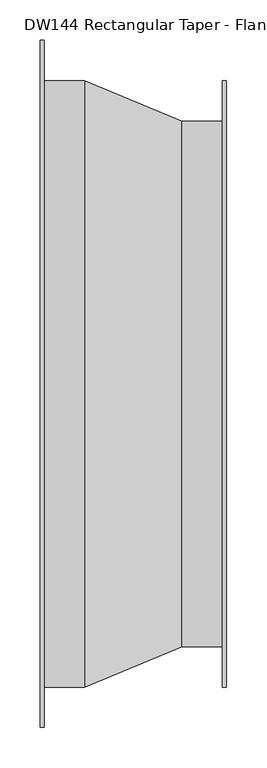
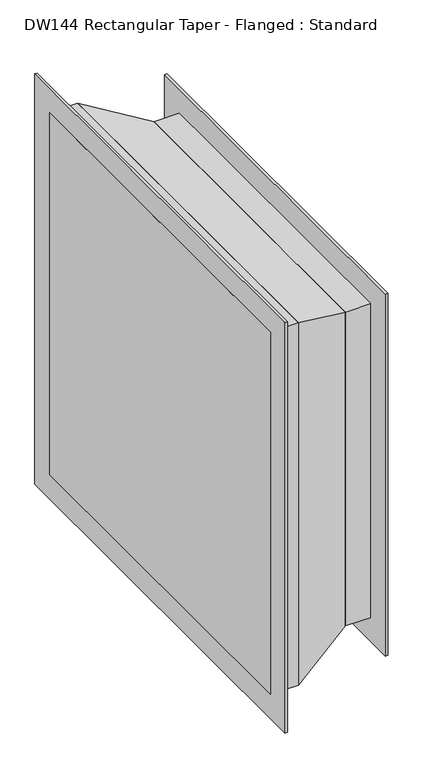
"""IFC4 building model written with IfcOpenShell, lengths in millimetres: duct fitting geometry, DW144 Rectangular Taper - Flanged : Standard."""

from ifc_helpers import new_model, si_unit, frame, origin, place, context, project, spatial, polyline, outline, extrude, faceted_brep, source, transform, mapped, element, save


def dw144_rectangular_taper_flanged_standard_8523b065(model_context):
    return source(origin(), model_context, "Body", "SolidModel", [
        extrude(outline(polyline([(230.7106781, 325.0), (230.7106781, -325.0), (175.7106781, -325.0), (175.7106781, 325.0), (230.7106781, 325.0)])), frame((0.0, 0.0, -325.0), z_axis=(0.0, 0.0, 1.0), x_axis=(1.0, 0.0, 0.0)), (0.0, 0.0, 1.0), 650.0),
        extrude(outline(polyline([(55.0, 375.0), (55.0, -375.0), (0.0, -375.0), (0.0, 375.0), (55.0, 375.0)])), frame((0.0, 0.0, -375.0), z_axis=(0.0, 0.0, 1.0), x_axis=(1.0, 0.0, 0.0)), (0.0, 0.0, 1.0), 750.0),
        faceted_brep([(175.7106781, -325.0, 325.0), (175.7106781, -325.0, -325.0), (175.7106781, 325.0, -325.0), (175.7106781, 325.0, 325.0), (55.0, -375.0, 375.0), (55.0, 375.0, 375.0), (55.0, 375.0, -375.0), (55.0, -375.0, -375.0)], [[[0, 1, 2, 3]], [[4, 5, 6, 7]], [[4, 7, 1, 0]], [[7, 6, 2, 1]], [[6, 5, 3, 2]], [[5, 4, 0, 3]]]),
        extrude(outline(polyline([(230.7106781, 375.0), (230.7106781, -375.0), (225.7106781, -375.0), (225.7106781, 375.0), (230.7106781, 375.0)])), frame((0.0, 0.0, -375.0), z_axis=(0.0, 0.0, 1.0), x_axis=(1.0, 0.0, 0.0)), (0.0, 0.0, 1.0), 750.0),
        extrude(outline(polyline([(5.0, 425.0), (5.0, -425.0), (0.0, -425.0), (0.0, 425.0), (5.0, 425.0)])), frame((0.0, 0.0, -425.0), z_axis=(0.0, 0.0, 1.0), x_axis=(1.0, 0.0, 0.0)), (0.0, 0.0, 1.0), 850.0),
    ])


if __name__ == "__main__":
    model = new_model("IFC4")
    model_context = context("Model", 3, world=origin())
    ifc_project = project(units=[si_unit("LENGTHUNIT", "METRE", prefix="MILLI")], contexts=[model_context])
    site = spatial("IfcSite", under=ifc_project)
    building = spatial("IfcBuilding", under=site)
    placement = place(None, origin())
    dw144_rectangular_taper_flanged_standard_shape = dw144_rectangular_taper_flanged_standard_8523b065(model_context)
    element("IfcDuctFitting", 1, ObjectType="DW144 Rectangular Taper - Flanged : Standard", at=placement, inside=building, context=model_context, shape_type="MappedRepresentation", body=[
        mapped(dw144_rectangular_taper_flanged_standard_shape, transform((0.0, 0.0, 0.0), x_axis=(1.0, 0.0, 0.0), y_axis=(0.0, 1.0, 0.0), z_axis=(0.0, 0.0, 1.0))),
    ])
    save(model, "model.ifc")
